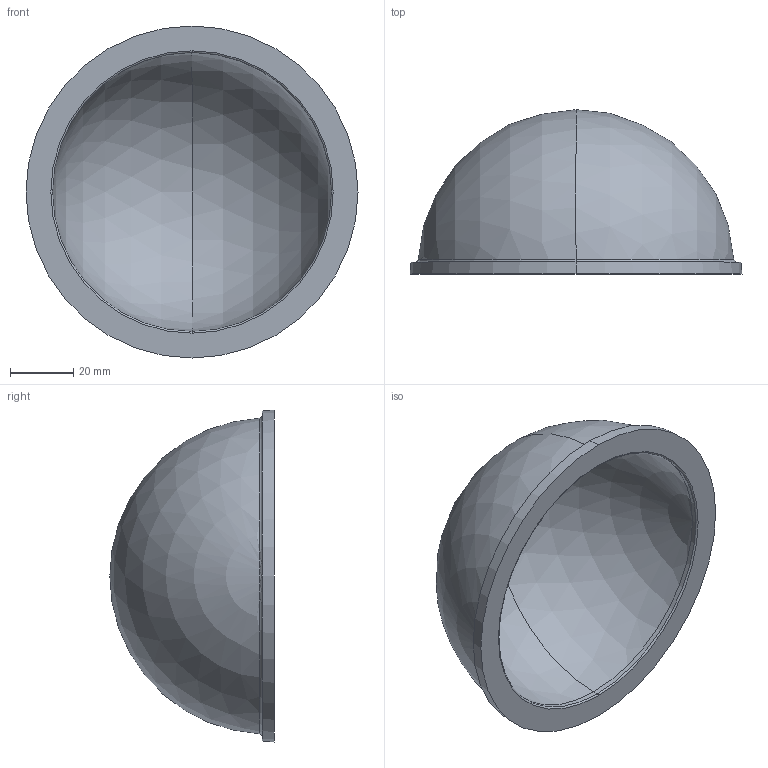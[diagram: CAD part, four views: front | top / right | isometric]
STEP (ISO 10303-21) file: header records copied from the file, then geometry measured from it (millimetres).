
FILE_DESCRIPTION (( 'STEP AP214' ), '1' );
FILE_NAME ('BR-103019_RevB.STEP', '2025-10-06T21:46:34', ( '' ), ( '' ), 'SwSTEP 2.0', 'SolidWorks 2024', '' );
FILE_SCHEMA (( 'AUTOMOTIVE_DESIGN' ));
Length unit declared in the file: millimetre
Products named in the file (1): BR-103019_RevB
Bounding box: 104.66 x 51.8 x 104.66 mm (x, y, z)
Volume: 86525 mm3; surface area: 32048.2 mm2
Topology: 1 solids, 1 shells, 14 faces, 30 edges, 18 vertices
Faces by surface type: torus 4, sphere 4, cone 2, cylinder 2, plane 2
Entity records: 383 total; most frequent: DIRECTION 78, CARTESIAN_POINT 57, ORIENTED_EDGE 52, AXIS2_PLACEMENT_3D 37, EDGE_CURVE 26, CIRCLE 22, VERTEX_POINT 16, EDGE_LOOP 16
